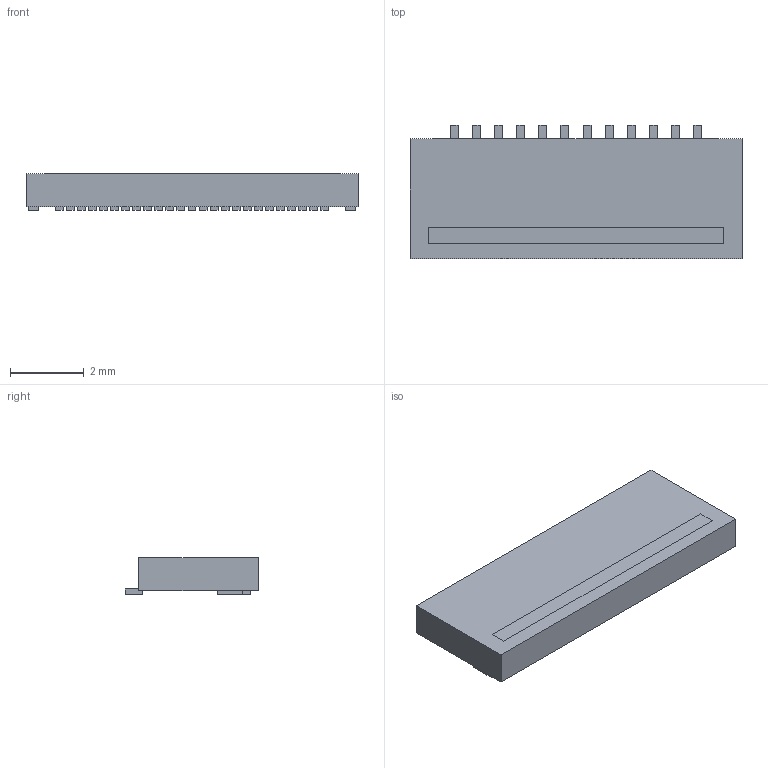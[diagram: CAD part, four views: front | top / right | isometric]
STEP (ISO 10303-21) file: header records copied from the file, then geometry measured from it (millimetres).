
FILE_DESCRIPTION(('Open CASCADE Model'),'2;1');
FILE_NAME('Open CASCADE Shape Model','2026-10-19T06:28:21',('Author'),( 'Open CASCADE'),'Open CASCADE STEP processor 7.8','Open CASCADE 7.8' ,'Unknown');
FILE_SCHEMA(('AUTOMOTIVE_DESIGN { 1 0 10303 214 1 1 1 1 }'));
Length unit declared in the file: millimetre
Products named in the file (30): FH26W-25S-0.3SHW; Housing_nominal; Latch_nominal; Contact_1; Contact_2; Contact_3; Contact_4; Contact_5; Contact_6; Contact_7; Contact_8; Contact_9; Contact_10; Contact_11; Contact_12; Contact_13; Contact_14; Contact_15; Contact_16; Contact_17; Contact_18; Contact_19; Contact_20; Contact_21; Contact_22; Contact_23; Contact_24; Contact_25; Contact_MP_25; Contact_MP_26
Assembly tree (29 placements, depth 2):
  FH26W-25S-0.3SHW
    Housing_nominal
    Latch_nominal
    Contact_1
    Contact_2
    Contact_3
    Contact_4
    Contact_5
    Contact_6
    Contact_7
    Contact_8
    Contact_9
    Contact_10
    Contact_11
    Contact_12
    Contact_13
    Contact_14
    Contact_15
    Contact_16
    Contact_17
    Contact_18
    Contact_19
    Contact_20
    Contact_21
    Contact_22
    Contact_23
    Contact_24
    Contact_25
    Contact_MP_25
    Contact_MP_26
Bounding box: 9 x 3.61 x 1 mm (x, y, z)
Volume: 26.6 mm3; surface area: 111.9 mm2
Topology: 29 solids, 29 shells, 179 faces, 360 edges, 240 vertices
Faces by surface type: plane 179
Entity records: 9937 total; most frequent: CARTESIAN_POINT 1537, DIRECTION 1490, LINE 1072, VECTOR 1072, ORIENTED_EDGE 720, PCURVE 720, DEFINITIONAL_REPRESENTATION 720, EDGE_CURVE 360
